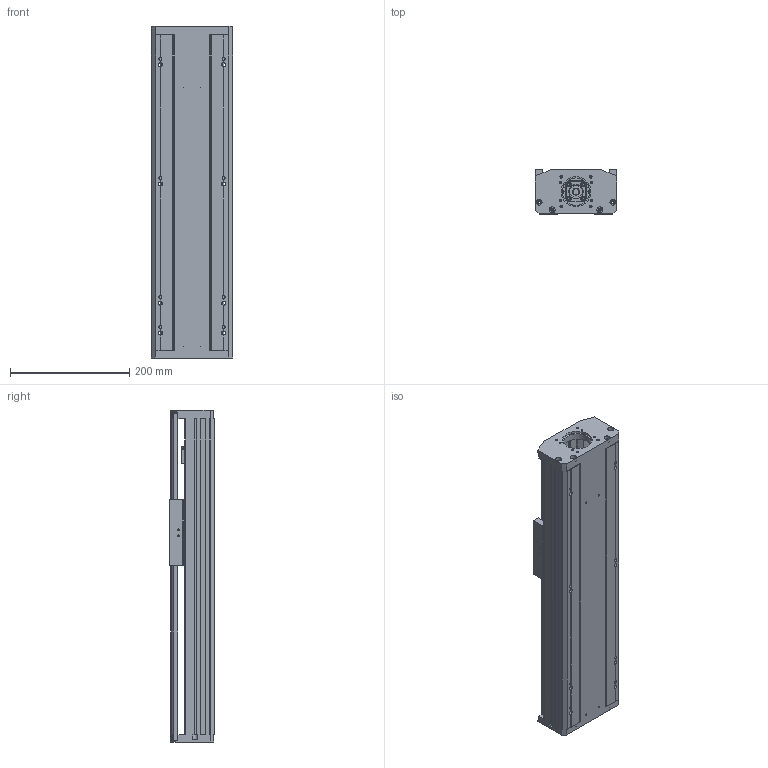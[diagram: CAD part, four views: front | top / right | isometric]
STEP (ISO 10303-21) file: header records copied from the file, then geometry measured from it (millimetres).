
FILE_DESCRIPTION(/* description */ (''),/* implementation_level */ '2;1');
FILE_NAME(/* name */ 'TKA136-F0-300_asm1_stp.stp',/* time_stamp */ '2016-09-08T15:43:26+08:00',/* author */ (''),/* organization */ (''),/* preprocessor_version */ 'ST-DEVELOPER v15',/* originating_system */ 'SIEMENS PLM Software NX 8.5',/* authorisation */ '');
FILE_SCHEMA (('AUTOMOTIVE_DESIGN { 1 0 10303 214 3 1 1 1 }'));
Length unit declared in the file: millimetre
Products named in the file (3): 300-02; 300-01; TKA136-F0-300_asm1_stp
Assembly tree (2 placements, depth 2):
  TKA136-F0-300_asm1_stp
    300-01
    300-02
Bounding box: 136 x 75 x 557 mm (x, y, z)
Volume: 1961143.1 mm3; surface area: 700755.2 mm2
Topology: 2 solids, 12 shells, 797 faces, 2185 edges, 1418 vertices
Faces by surface type: plane 381, cylinder 362, cone 54
Full cylindrical faces by diameter (mm): 2.5 x4, 3 x2, 3.3 x12, 4 x4, 4.2 x10, 4.5 x20, 5 x12, 5.5 x26, 6.6 x12, 8 x20, 10 x9, 10.5 x8, 11 x4, 11.6 x1, 12 x9, 15 x3, 16 x5, 17 x1, 24 x5, 26 x1, 28 x1, 46 x1, 50 x1
Entity records: 26230 total; most frequent: CARTESIAN_POINT 6940, DIRECTION 4007, ORIENTED_EDGE 3712, EDGE_CURVE 1856, AXIS2_PLACEMENT_3D 1523, VERTEX_POINT 1340, EDGE_LOOP 1162, LINE 961
